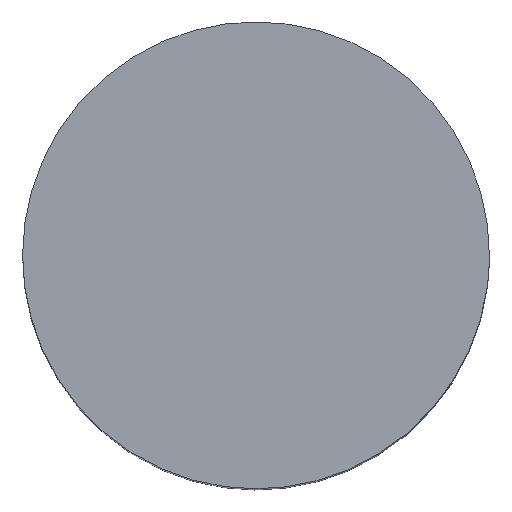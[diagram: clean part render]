
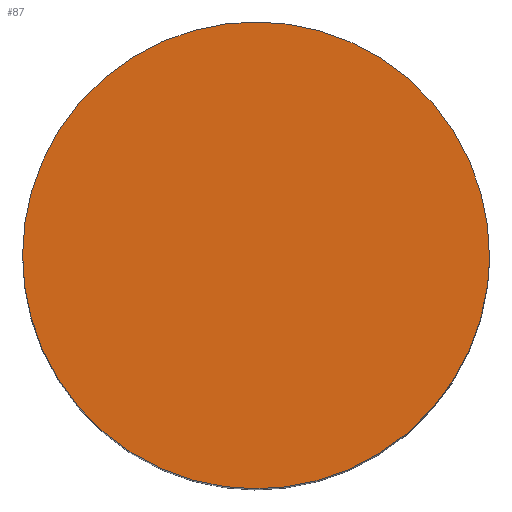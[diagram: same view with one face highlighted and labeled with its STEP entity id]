
A CAD part, top view. The second image highlights one B-rep face of the part: STEP entity #87.
In plain terms, the highlighted planar face has unit normal (0, 0, 1).
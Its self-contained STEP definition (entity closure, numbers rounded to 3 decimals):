
#31=CARTESIAN_POINT('',(10.0,0.0,30.0));
#32=CARTESIAN_POINT('',(10.,10.0,30.0));
#33=CARTESIAN_POINT('',(0.,10.0,30.0));
#34=CARTESIAN_POINT('',(-10.0,10.,30.0));
#35=CARTESIAN_POINT('',(-10.0,0.,30.0));
#36=CARTESIAN_POINT('',(-10.,-10.0,30.0));
#37=CARTESIAN_POINT('',(0.,-10.0,30.0));
#38=CARTESIAN_POINT('',(10.,-10.,30.0));
#39=CARTESIAN_POINT('',(10.0,0.,30.0));
#40=( BOUNDED_CURVE() B_SPLINE_CURVE(2,(#31,#32,#33,#34,#35,#36,#37,#38,#39),.UNSPECIFIED.,.T.,.F.) B_SPLINE_CURVE_WITH_KNOTS((3,2,2,2,3),(0.0,0.25,0.5,0.75,1.0),.UNSPECIFIED.) CURVE() GEOMETRIC_REPRESENTATION_ITEM() RATIONAL_B_SPLINE_CURVE((1.0,0.707,1.0,0.707,1.0,0.707,1.0,0.707,1.0)) REPRESENTATION_ITEM('') );
#41=CARTESIAN_POINT('',(10.0,0.0,30.0));
#42=VERTEX_POINT('',#41);
#43=EDGE_CURVE('',#42,#42,#40,.T.);
#79=CARTESIAN_POINT('',(0.0,0.0,30.0));
#80=DIRECTION('',(0.0,0.0,1.0));
#81=DIRECTION('',(1.0,0.0,0.0));
#82=AXIS2_PLACEMENT_3D('',#79,#80,#81);
#83=PLANE('',#82);
#84=ORIENTED_EDGE('',*,*,#43,.T.);
#85=EDGE_LOOP('',(#84));
#86=FACE_OUTER_BOUND('',#85,.T.);
#87=ADVANCED_FACE('',(#86),#83,.T.);
